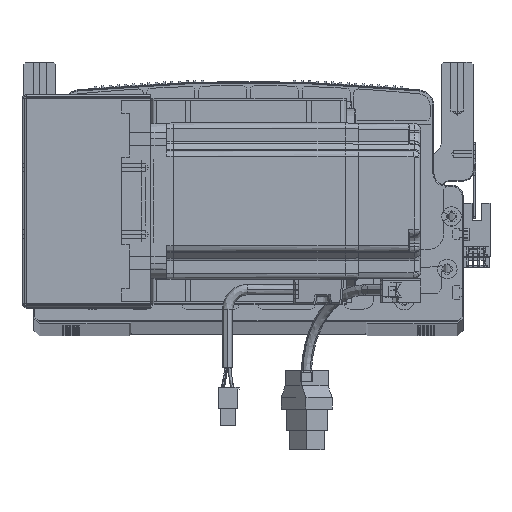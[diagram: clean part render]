
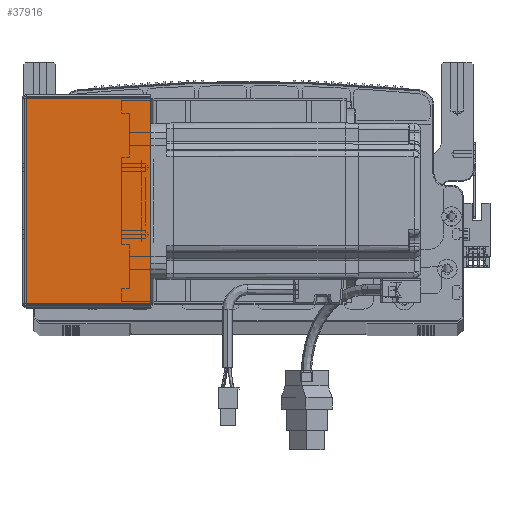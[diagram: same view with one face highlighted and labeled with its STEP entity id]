
A CAD part, top view. The second image highlights one B-rep face of the part: STEP entity #37916.
In plain terms, the highlighted planar face has unit normal (0, 0, 1) as drawn and (0, 0, -1) by its records, which use the part's own axes.
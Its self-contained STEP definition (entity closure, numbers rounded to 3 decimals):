
#2557 = CARTESIAN_POINT ( 'NONE',  ( 0., 0., -205.5 ) ) ;
#2854 = LINE ( 'NONE', #33147, #73976 ) ;
#3604 = DIRECTION ( 'NONE',  ( 0., 0., 1. ) ) ;
#5479 = ORIENTED_EDGE ( 'NONE', *, *, #91270, .T. ) ;
#9490 = ORIENTED_EDGE ( 'NONE', *, *, #48303, .F. ) ;
#10607 = CARTESIAN_POINT ( 'NONE',  ( 64.5, 105.293, -205.5 ) ) ;
#13841 = VECTOR ( 'NONE', #47152, 1000. ) ;
#15834 = VECTOR ( 'NONE', #93994, 1000. ) ;
#20889 = CARTESIAN_POINT ( 'NONE',  ( 0.737, 0.707, -205.5 ) ) ;
#22824 = EDGE_CURVE ( 'NONE', #51270, #36753, #91969, .T. ) ;
#23093 = CARTESIAN_POINT ( 'NONE',  ( 64.5, 0., -205.5 ) ) ;
#27218 = PLANE ( 'NONE',  #44043 ) ;
#33147 = CARTESIAN_POINT ( 'NONE',  ( 0.737, 0., -205.5 ) ) ;
#36753 = VERTEX_POINT ( 'NONE', #46468 ) ;
#37916 = ADVANCED_FACE ( 'NONE', ( #89101 ), #27218, .F. ) ;
#44043 = AXIS2_PLACEMENT_3D ( 'NONE', #2557, #3604, #67698 ) ;
#46468 = CARTESIAN_POINT ( 'NONE',  ( 64.5, 0.707, -205.5 ) ) ;
#47152 = DIRECTION ( 'NONE',  ( 0., -1., 0. ) ) ;
#47519 = DIRECTION ( 'NONE',  ( 1., 0., 0. ) ) ;
#48303 = EDGE_CURVE ( 'NONE', #76294, #51270, #2854, .T. ) ;
#51270 = VERTEX_POINT ( 'NONE', #20889 ) ;
#51631 = ORIENTED_EDGE ( 'NONE', *, *, #22824, .F. ) ;
#56137 = ORIENTED_EDGE ( 'NONE', *, *, #76317, .T. ) ;
#56937 = VECTOR ( 'NONE', #47519, 1000. ) ;
#62616 = CARTESIAN_POINT ( 'NONE',  ( 0., 0.707, -205.5 ) ) ;
#64295 = CARTESIAN_POINT ( 'NONE',  ( 0., 105.293, -205.5 ) ) ;
#67423 = VERTEX_POINT ( 'NONE', #10607 ) ;
#67698 = DIRECTION ( 'NONE',  ( 1., 0., 0. ) ) ;
#73976 = VECTOR ( 'NONE', #89618, 1000. ) ;
#76294 = VERTEX_POINT ( 'NONE', #88671 ) ;
#76317 = EDGE_CURVE ( 'NONE', #67423, #36753, #101160, .T. ) ;
#78175 = LINE ( 'NONE', #64295, #56937 ) ;
#85669 = EDGE_LOOP ( 'NONE', ( #9490, #5479, #56137, #51631 ) ) ;
#88671 = CARTESIAN_POINT ( 'NONE',  ( 0.737, 105.293, -205.5 ) ) ;
#89101 = FACE_OUTER_BOUND ( 'NONE', #85669, .T. ) ;
#89618 = DIRECTION ( 'NONE',  ( 0., -1., 0. ) ) ;
#91270 = EDGE_CURVE ( 'NONE', #76294, #67423, #78175, .T. ) ;
#91969 = LINE ( 'NONE', #62616, #15834 ) ;
#93994 = DIRECTION ( 'NONE',  ( 1., 0., 0. ) ) ;
#101160 = LINE ( 'NONE', #23093, #13841 ) ;
